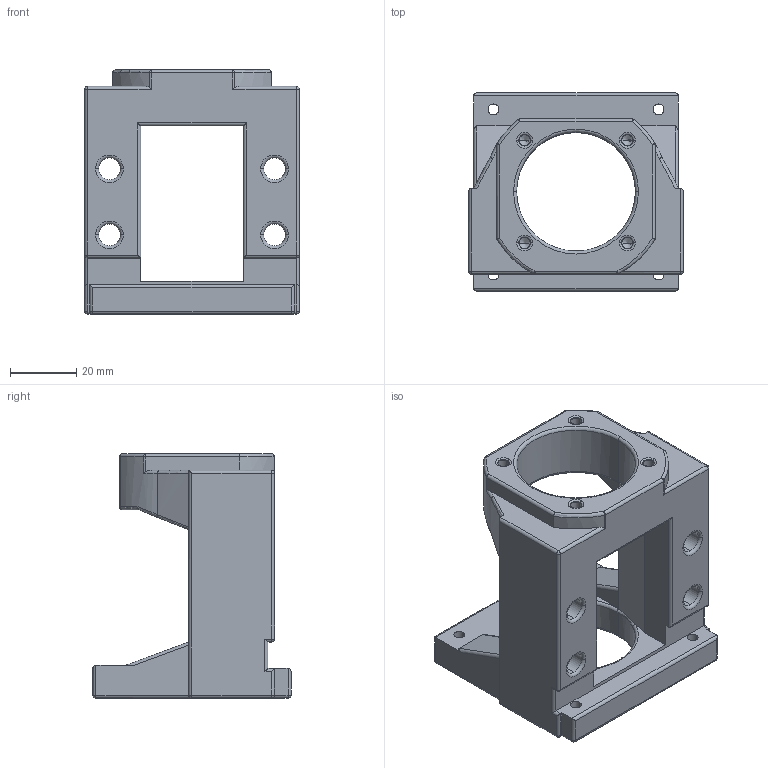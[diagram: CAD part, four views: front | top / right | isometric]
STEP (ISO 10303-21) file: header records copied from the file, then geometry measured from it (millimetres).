
FILE_DESCRIPTION (( 'STEP AP203' ), '1' );
FILE_NAME ('MBA12-BF.STEP', '2018-01-03T02:27:21', ( '' ), ( '' ), 'SwSTEP 2.0', 'SolidWorks 2017', '' );
FILE_SCHEMA (( 'CONFIG_CONTROL_DESIGN' ));
Length unit declared in the file: millimetre
Products named in the file (1): MBA12-BF
Bounding box: 65 x 60 x 74 mm (x, y, z)
Volume: 89827.7 mm3; surface area: 26231.2 mm2
Topology: 1 solids, 1 shells, 227 faces, 561 edges, 314 vertices
Faces by surface type: cylinder 98, plane 44, torus 34, cone 24, sphere 20, bspline 7
Entity records: 6927 total; most frequent: CARTESIAN_POINT 1655, DIRECTION 1138, ORIENTED_EDGE 1070, EDGE_CURVE 535, AXIS2_PLACEMENT_3D 451, VERTEX_POINT 314, EDGE_LOOP 253, LINE 236
